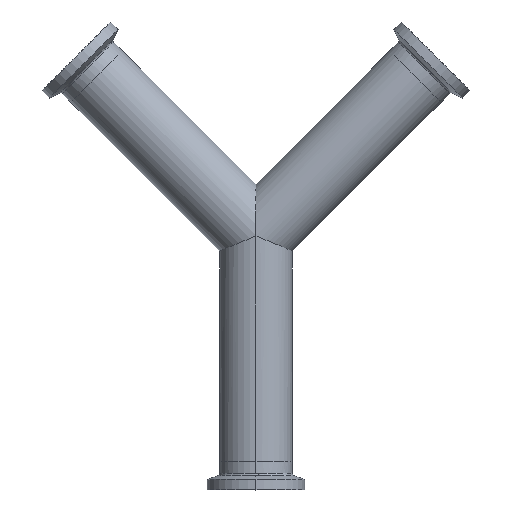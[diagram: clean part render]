
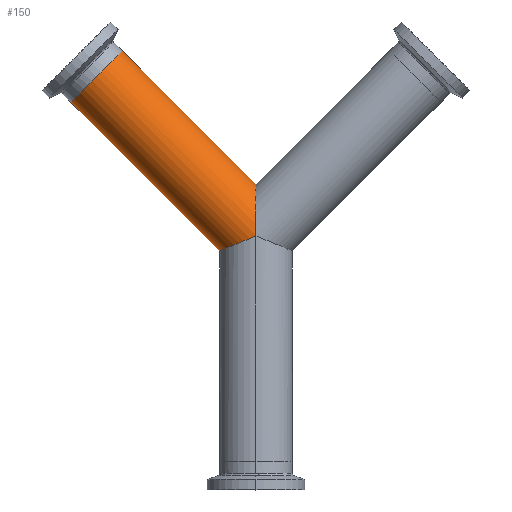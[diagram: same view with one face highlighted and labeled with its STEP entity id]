
A CAD part, top view. The second image highlights one B-rep face of the part: STEP entity #150.
In plain terms, the highlighted cylindrical face has radius 12.7 mm (diameter 25.4 mm), a partial arc.
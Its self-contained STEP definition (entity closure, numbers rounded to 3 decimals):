
#6 =( BOUNDED_CURVE ( )  B_SPLINE_CURVE ( 3, ( #1773, #155, #376, #2015 ),
 .UNSPECIFIED., .F., .T. ) 
 B_SPLINE_CURVE_WITH_KNOTS ( ( 4, 4 ),
 ( 4.712, 6.283 ),
 .UNSPECIFIED. ) 
 CURVE ( )  GEOMETRIC_REPRESENTATION_ITEM ( )  RATIONAL_B_SPLINE_CURVE ( ( 1., 0.805, 0.805, 1. ) ) 
 REPRESENTATION_ITEM ( '' )  );
#28 = EDGE_CURVE ( 'NONE', #2252, #847, #2922, .T. ) ;
#79 = DIRECTION ( 'NONE',  ( 0.707, -0.707, 0. ) ) ;
#150 = ADVANCED_FACE ( 'NONE', ( #1568 ), #2116, .T. ) ;
#155 = CARTESIAN_POINT ( 'NONE',  ( -7.439, -3.082, 12.7 ) ) ;
#298 = CARTESIAN_POINT ( 'NONE',  ( -55.791, 55.791, 0. ) ) ;
#376 = CARTESIAN_POINT ( 'NONE',  ( -12.7, -5.261, 7.439 ) ) ;
#433 = DIRECTION ( 'NONE',  ( -0.707, 0.707, 0. ) ) ;
#552 = VECTOR ( 'NONE', #433, 1000. ) ;
#588 = CARTESIAN_POINT ( 'NONE',  ( -12.7, -5.261, 0. ) ) ;
#747 = VECTOR ( 'NONE', #2366, 1000. ) ;
#774 = EDGE_CURVE ( 'NONE', #1359, #2252, #1188, .T. ) ;
#847 = VERTEX_POINT ( 'NONE', #2311 ) ;
#916 = CARTESIAN_POINT ( 'NONE',  ( 0., 0., 12.7 ) ) ;
#940 = CARTESIAN_POINT ( 'NONE',  ( 0., 0., 12.7 ) ) ;
#953 = CARTESIAN_POINT ( 'NONE',  ( -46.81, 64.771, 0. ) ) ;
#1019 = CARTESIAN_POINT ( 'NONE',  ( 25.4, -25.4, 0. ) ) ;
#1184 = CARTESIAN_POINT ( 'NONE',  ( 0., 17.961, 7.439 ) ) ;
#1188 = LINE ( 'NONE', #2515, #552 ) ;
#1262 = EDGE_CURVE ( 'NONE', #2550, #847, #2608, .T. ) ;
#1359 = VERTEX_POINT ( 'NONE', #2791 ) ;
#1410 =( BOUNDED_CURVE ( )  B_SPLINE_CURVE ( 3, ( #940, #2573, #1184, #2797 ),
 .UNSPECIFIED., .F., .F. ) 
 B_SPLINE_CURVE_WITH_KNOTS ( ( 4, 4 ),
 ( 4.712, 6.283 ),
 .UNSPECIFIED. ) 
 CURVE ( )  GEOMETRIC_REPRESENTATION_ITEM ( )  RATIONAL_B_SPLINE_CURVE ( ( 1., 0.805, 0.805, 1. ) ) 
 REPRESENTATION_ITEM ( '' )  );
#1504 = AXIS2_PLACEMENT_3D ( 'NONE', #1019, #2374, #2184 ) ;
#1568 = FACE_OUTER_BOUND ( 'NONE', #2169, .T. ) ;
#1569 = ORIENTED_EDGE ( 'NONE', *, *, #1262, .F. ) ;
#1773 = CARTESIAN_POINT ( 'NONE',  ( 0., 0., 12.7 ) ) ;
#1783 = ORIENTED_EDGE ( 'NONE', *, *, #2226, .T. ) ;
#1919 = VERTEX_POINT ( 'NONE', #916 ) ;
#2015 = CARTESIAN_POINT ( 'NONE',  ( -12.7, -5.261, 0. ) ) ;
#2104 = EDGE_CURVE ( 'NONE', #1919, #2550, #6, .T. ) ;
#2116 = CYLINDRICAL_SURFACE ( 'NONE', #1504, 12.7 ) ;
#2145 = CARTESIAN_POINT ( 'NONE',  ( 16.42, -34.38, 0. ) ) ;
#2153 = DIRECTION ( 'NONE',  ( -0.707, -0.707, 0. ) ) ;
#2169 = EDGE_LOOP ( 'NONE', ( #1783, #2428, #2317, #1569, #2574 ) ) ;
#2184 = DIRECTION ( 'NONE',  ( -0.707, -0.707, 0. ) ) ;
#2226 = EDGE_CURVE ( 'NONE', #1919, #1359, #1410, .T. ) ;
#2252 = VERTEX_POINT ( 'NONE', #953 ) ;
#2311 = CARTESIAN_POINT ( 'NONE',  ( -64.771, 46.81, 0. ) ) ;
#2317 = ORIENTED_EDGE ( 'NONE', *, *, #28, .T. ) ;
#2366 = DIRECTION ( 'NONE',  ( -0.707, 0.707, 0. ) ) ;
#2374 = DIRECTION ( 'NONE',  ( -0.707, 0.707, 0. ) ) ;
#2428 = ORIENTED_EDGE ( 'NONE', *, *, #774, .T. ) ;
#2515 = CARTESIAN_POINT ( 'NONE',  ( 34.38, -16.42, 0. ) ) ;
#2550 = VERTEX_POINT ( 'NONE', #588 ) ;
#2573 = CARTESIAN_POINT ( 'NONE',  ( 0., 10.521, 12.7 ) ) ;
#2574 = ORIENTED_EDGE ( 'NONE', *, *, #2104, .F. ) ;
#2608 = LINE ( 'NONE', #2145, #747 ) ;
#2778 = AXIS2_PLACEMENT_3D ( 'NONE', #298, #79, #2153 ) ;
#2791 = CARTESIAN_POINT ( 'NONE',  ( 0., 17.961, 0. ) ) ;
#2797 = CARTESIAN_POINT ( 'NONE',  ( 0., 17.961, 0. ) ) ;
#2922 = CIRCLE ( 'NONE', #2778, 12.7 ) ;
